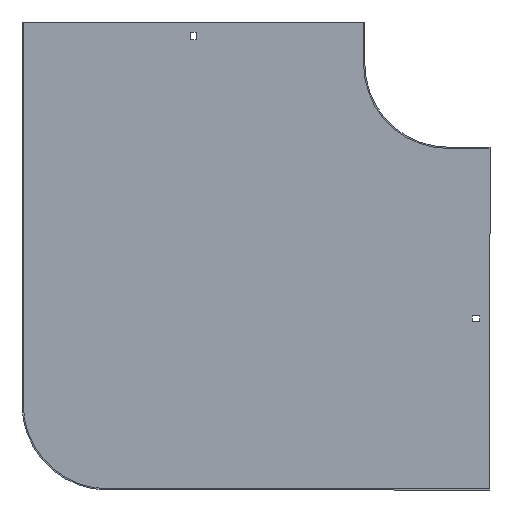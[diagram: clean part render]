
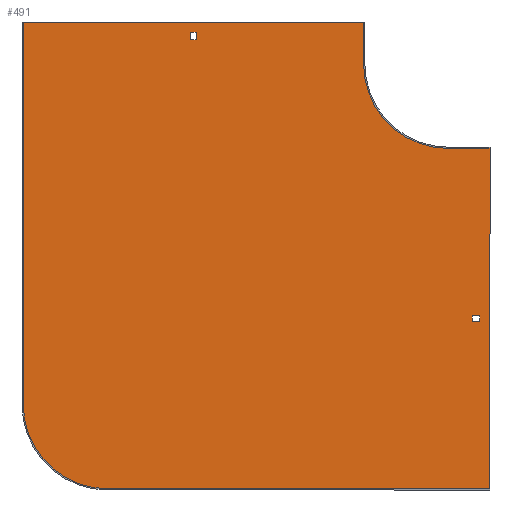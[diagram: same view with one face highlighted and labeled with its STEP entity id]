
A CAD part, front view. The second image highlights one B-rep face of the part: STEP entity #491.
In plain terms, the highlighted planar face has unit normal (0, -1, 0).
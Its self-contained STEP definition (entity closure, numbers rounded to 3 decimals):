
#2 = CARTESIAN_POINT ( 'NONE',  ( 0., -1.5, -100. ) ) ;
#9 = CIRCLE ( 'NONE', #206, 100. ) ;
#34 = DIRECTION ( 'NONE',  ( 0., 1., 0. ) ) ;
#35 = PLANE ( 'NONE',  #328 ) ;
#43 = LINE ( 'NONE', #296, #134 ) ;
#44 = EDGE_LOOP ( 'NONE', ( #96, #760, #474, #544 ) ) ;
#49 = EDGE_CURVE ( 'NONE', #72, #303, #84, .T. ) ;
#58 = DIRECTION ( 'NONE',  ( 0., -1., 0. ) ) ;
#62 = ORIENTED_EDGE ( 'NONE', *, *, #422, .F. ) ;
#65 = VECTOR ( 'NONE', #388, 1000. ) ;
#72 = VERTEX_POINT ( 'NONE', #155 ) ;
#84 = LINE ( 'NONE', #695, #258 ) ;
#91 = VECTOR ( 'NONE', #393, 1000. ) ;
#96 = ORIENTED_EDGE ( 'NONE', *, *, #672, .F. ) ;
#99 = FACE_BOUND ( 'NONE', #225, .T. ) ;
#104 = EDGE_CURVE ( 'NONE', #468, #533, #411, .T. ) ;
#106 = VECTOR ( 'NONE', #521, 1000. ) ;
#111 = VERTEX_POINT ( 'NONE', #301 ) ;
#115 = ORIENTED_EDGE ( 'NONE', *, *, #300, .F. ) ;
#121 = LINE ( 'NONE', #718, #762 ) ;
#126 = CARTESIAN_POINT ( 'NONE',  ( 50., -1.5, -100. ) ) ;
#132 = LINE ( 'NONE', #789, #594 ) ;
#134 = VECTOR ( 'NONE', #562, 1000. ) ;
#143 = ORIENTED_EDGE ( 'NONE', *, *, #677, .T. ) ;
#148 = VECTOR ( 'NONE', #711, 1000. ) ;
#155 = CARTESIAN_POINT ( 'NONE',  ( 29., -1.5, -298.75 ) ) ;
#156 = EDGE_CURVE ( 'NONE', #590, #216, #171, .T. ) ;
#158 = CARTESIAN_POINT ( 'NONE',  ( 50., -1.5, -504. ) ) ;
#162 = CARTESIAN_POINT ( 'NONE',  ( 38., -1.5, -298.75 ) ) ;
#166 = ORIENTED_EDGE ( 'NONE', *, *, #678, .T. ) ;
#169 = EDGE_CURVE ( 'NONE', #336, #468, #121, .T. ) ;
#171 = LINE ( 'NONE', #379, #374 ) ;
#172 = LINE ( 'NONE', #439, #148 ) ;
#198 = DIRECTION ( 'NONE',  ( 1., 0., 0. ) ) ;
#205 = AXIS2_PLACEMENT_3D ( 'NONE', #228, #34, #752 ) ;
#206 = AXIS2_PLACEMENT_3D ( 'NONE', #342, #58, #322 ) ;
#213 = LINE ( 'NONE', #549, #429 ) ;
#216 = VERTEX_POINT ( 'NONE', #800 ) ;
#225 = EDGE_LOOP ( 'NONE', ( #166, #717, #542, #143 ) ) ;
#228 = CARTESIAN_POINT ( 'NONE',  ( -404., -1.5, -404. ) ) ;
#249 = CARTESIAN_POINT ( 'NONE',  ( 0., -1.5, 0. ) ) ;
#255 = DIRECTION ( 'NONE',  ( -1., 0., 0. ) ) ;
#257 = CARTESIAN_POINT ( 'NONE',  ( 29., -1.5, -305.25 ) ) ;
#258 = VECTOR ( 'NONE', #756, 1000. ) ;
#263 = DIRECTION ( 'NONE',  ( 0., 0., 1. ) ) ;
#264 = LINE ( 'NONE', #531, #65 ) ;
#271 = EDGE_CURVE ( 'NONE', #111, #731, #808, .T. ) ;
#276 = VERTEX_POINT ( 'NONE', #458 ) ;
#287 = EDGE_CURVE ( 'NONE', #533, #341, #406, .T. ) ;
#296 = CARTESIAN_POINT ( 'NONE',  ( 0., -1.5, -305.25 ) ) ;
#300 = EDGE_CURVE ( 'NONE', #576, #111, #9, .T. ) ;
#301 = CARTESIAN_POINT ( 'NONE',  ( 0., -1.5, -100. ) ) ;
#303 = VERTEX_POINT ( 'NONE', #257 ) ;
#322 = DIRECTION ( 'NONE',  ( 0., 0., -1. ) ) ;
#327 = DIRECTION ( 'NONE',  ( 0., 0., 1. ) ) ;
#328 = AXIS2_PLACEMENT_3D ( 'NONE', #249, #377, #445 ) ;
#331 = VERTEX_POINT ( 'NONE', #599 ) ;
#335 = EDGE_CURVE ( 'NONE', #341, #331, #534, .T. ) ;
#336 = VERTEX_POINT ( 'NONE', #158 ) ;
#341 = VERTEX_POINT ( 'NONE', #826 ) ;
#342 = CARTESIAN_POINT ( 'NONE',  ( 0., -1.5, 0. ) ) ;
#360 = ORIENTED_EDGE ( 'NONE', *, *, #577, .F. ) ;
#368 = CARTESIAN_POINT ( 'NONE',  ( -298.75, -1.5, 38. ) ) ;
#374 = VECTOR ( 'NONE', #586, 1000. ) ;
#377 = DIRECTION ( 'NONE',  ( 0., -1., 0. ) ) ;
#378 = VERTEX_POINT ( 'NONE', #162 ) ;
#379 = CARTESIAN_POINT ( 'NONE',  ( -298.75, -1.5, 0. ) ) ;
#380 = FACE_OUTER_BOUND ( 'NONE', #802, .T. ) ;
#388 = DIRECTION ( 'NONE',  ( -1., 0., 0. ) ) ;
#391 = CARTESIAN_POINT ( 'NONE',  ( -305.25, -1.5, 0. ) ) ;
#393 = DIRECTION ( 'NONE',  ( 1., 0., 0. ) ) ;
#406 = LINE ( 'NONE', #658, #582 ) ;
#411 = CIRCLE ( 'NONE', #205, 100. ) ;
#412 = VERTEX_POINT ( 'NONE', #560 ) ;
#422 = EDGE_CURVE ( 'NONE', #331, #576, #213, .T. ) ;
#429 = VECTOR ( 'NONE', #748, 1000. ) ;
#439 = CARTESIAN_POINT ( 'NONE',  ( 50., -1.5, -98.5 ) ) ;
#441 = ORIENTED_EDGE ( 'NONE', *, *, #335, .F. ) ;
#445 = DIRECTION ( 'NONE',  ( 0., 0., -1. ) ) ;
#446 = ORIENTED_EDGE ( 'NONE', *, *, #287, .F. ) ;
#458 = CARTESIAN_POINT ( 'NONE',  ( -305.25, -1.5, 38. ) ) ;
#460 = CARTESIAN_POINT ( 'NONE',  ( 38., -1.5, 0. ) ) ;
#468 = VERTEX_POINT ( 'NONE', #757 ) ;
#474 = ORIENTED_EDGE ( 'NONE', *, *, #583, .F. ) ;
#483 = VECTOR ( 'NONE', #255, 1000. ) ;
#491 = ADVANCED_FACE ( 'NONE', ( #835, #380, #99 ), #35, .T. ) ;
#501 = CARTESIAN_POINT ( 'NONE',  ( -504., -1.5, -404. ) ) ;
#508 = VERTEX_POINT ( 'NONE', #838 ) ;
#521 = DIRECTION ( 'NONE',  ( 0., 0., 1. ) ) ;
#531 = CARTESIAN_POINT ( 'NONE',  ( 0., -1.5, 29. ) ) ;
#533 = VERTEX_POINT ( 'NONE', #501 ) ;
#534 = LINE ( 'NONE', #734, #818 ) ;
#542 = ORIENTED_EDGE ( 'NONE', *, *, #764, .T. ) ;
#544 = ORIENTED_EDGE ( 'NONE', *, *, #49, .F. ) ;
#549 = CARTESIAN_POINT ( 'NONE',  ( -100., -1.5, 50. ) ) ;
#560 = CARTESIAN_POINT ( 'NONE',  ( -305.25, -1.5, 29. ) ) ;
#562 = DIRECTION ( 'NONE',  ( 1., 0., 0. ) ) ;
#576 = VERTEX_POINT ( 'NONE', #578 ) ;
#577 = EDGE_CURVE ( 'NONE', #731, #336, #172, .T. ) ;
#578 = CARTESIAN_POINT ( 'NONE',  ( -100., -1.5, 0. ) ) ;
#582 = VECTOR ( 'NONE', #263, 1000. ) ;
#583 = EDGE_CURVE ( 'NONE', #303, #508, #43, .T. ) ;
#586 = DIRECTION ( 'NONE',  ( 0., 0., -1. ) ) ;
#589 = LINE ( 'NONE', #797, #483 ) ;
#590 = VERTEX_POINT ( 'NONE', #368 ) ;
#594 = VECTOR ( 'NONE', #198, 1000. ) ;
#599 = CARTESIAN_POINT ( 'NONE',  ( -100., -1.5, 50. ) ) ;
#658 = CARTESIAN_POINT ( 'NONE',  ( -504., -1.5, -404. ) ) ;
#672 = EDGE_CURVE ( 'NONE', #378, #72, #589, .T. ) ;
#674 = DIRECTION ( 'NONE',  ( 1., 0., 0. ) ) ;
#677 = EDGE_CURVE ( 'NONE', #412, #276, #858, .T. ) ;
#678 = EDGE_CURVE ( 'NONE', #276, #590, #132, .T. ) ;
#695 = CARTESIAN_POINT ( 'NONE',  ( 29., -1.5, 0. ) ) ;
#705 = EDGE_CURVE ( 'NONE', #508, #378, #793, .T. ) ;
#707 = DIRECTION ( 'NONE',  ( -1., 0., 0. ) ) ;
#711 = DIRECTION ( 'NONE',  ( 0., 0., -1. ) ) ;
#717 = ORIENTED_EDGE ( 'NONE', *, *, #156, .T. ) ;
#718 = CARTESIAN_POINT ( 'NONE',  ( 50., -1.5, -504. ) ) ;
#731 = VERTEX_POINT ( 'NONE', #126 ) ;
#734 = CARTESIAN_POINT ( 'NONE',  ( -505.5, -1.5, 50. ) ) ;
#748 = DIRECTION ( 'NONE',  ( 0., 0., -1. ) ) ;
#752 = DIRECTION ( 'NONE',  ( 0., 0., -1. ) ) ;
#756 = DIRECTION ( 'NONE',  ( 0., 0., -1. ) ) ;
#757 = CARTESIAN_POINT ( 'NONE',  ( -404., -1.5, -504. ) ) ;
#760 = ORIENTED_EDGE ( 'NONE', *, *, #705, .F. ) ;
#762 = VECTOR ( 'NONE', #707, 1000. ) ;
#764 = EDGE_CURVE ( 'NONE', #216, #412, #264, .T. ) ;
#771 = ORIENTED_EDGE ( 'NONE', *, *, #169, .F. ) ;
#789 = CARTESIAN_POINT ( 'NONE',  ( 0., -1.5, 38. ) ) ;
#793 = LINE ( 'NONE', #460, #803 ) ;
#797 = CARTESIAN_POINT ( 'NONE',  ( 0., -1.5, -298.75 ) ) ;
#800 = CARTESIAN_POINT ( 'NONE',  ( -298.75, -1.5, 29. ) ) ;
#802 = EDGE_LOOP ( 'NONE', ( #441, #446, #842, #771, #360, #856, #115, #62 ) ) ;
#803 = VECTOR ( 'NONE', #327, 1000. ) ;
#808 = LINE ( 'NONE', #2, #91 ) ;
#818 = VECTOR ( 'NONE', #674, 1000. ) ;
#826 = CARTESIAN_POINT ( 'NONE',  ( -504., -1.5, 50. ) ) ;
#835 = FACE_BOUND ( 'NONE', #44, .T. ) ;
#838 = CARTESIAN_POINT ( 'NONE',  ( 38., -1.5, -305.25 ) ) ;
#842 = ORIENTED_EDGE ( 'NONE', *, *, #104, .F. ) ;
#856 = ORIENTED_EDGE ( 'NONE', *, *, #271, .F. ) ;
#858 = LINE ( 'NONE', #391, #106 ) ;
